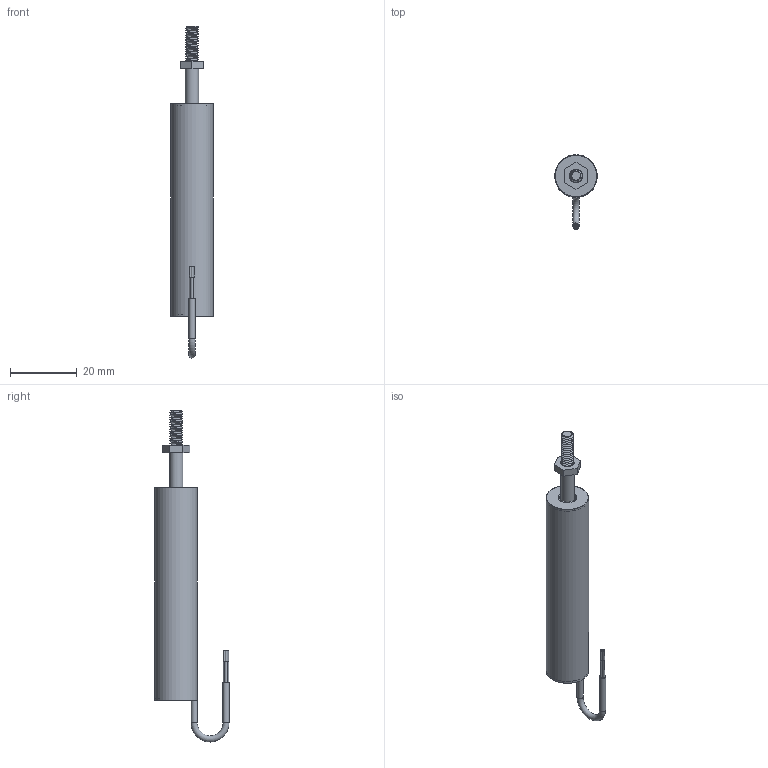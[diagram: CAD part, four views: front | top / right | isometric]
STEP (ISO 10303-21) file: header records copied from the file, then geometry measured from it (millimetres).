
FILE_DESCRIPTION(/* description */ (''),/* implementation_level */ '2;1');
FILE_NAME(/* name */ 'C:\Users\Justin\Documents\CAD\The Sensor Connection\Position Sensors\Displacement\ILPS\3D\Mechanically Linked\ILPS-13Z-XXX-A-00-YY-S\ILPS-13Z-02-A-00-YY-S\ILPS-13Z-02-A-00-YY-S Assembly_SW.iam.stp',/* time_stamp */ '2022-06-03T09:26:00-04:00',/* author */ ('TSC_Grant'),/* organization */ (''),/* preprocessor_version */ 'ST-DEVELOPER v19',/* originating_system */ 'Autodesk Inventor 2023',/* authorisation */ '');
FILE_SCHEMA (('AUTOMOTIVE_DESIGN { 1 0 10303 214 3 1 1 }'));
Length unit declared in the file: inch
Products named in the file (5): 3020-0017-XX Assembly_SW; 3020-0017-XX Sensor Tube_SW; 3020-0017-XX Shaft_SW; 3020-0017-XX Wire_SW; BS 4183 - M4
Assembly tree (4 placements, depth 2):
  3020-0017-XX Assembly_SW
    3020-0017-XX Sensor Tube_SW
    3020-0017-XX Shaft_SW
    3020-0017-XX Wire_SW
    BS 4183 - M4
Bounding box: 12.7 x 22.14 x 99.13 mm (x, y, z)
Volume: 1908.8 mm3; surface area: 9056 mm2
Topology: 7 solids, 7 shells, 60 faces, 112 edges, 74 vertices
Faces by surface type: plane 31, cylinder 21, cone 4, bspline 3, torus 1
Full cylindrical faces by diameter (mm): 0.508 x4, 0.635 x4, 1.857 x2, 3.242 x1, 3.988 x1, 4.826 x1, 5.588 x3, 12.446 x2, 12.7 x1
Entity records: 3399 total; most frequent: CARTESIAN_POINT 1856, DIRECTION 281, ORIENTED_EDGE 224, AXIS2_PLACEMENT_3D 116, EDGE_CURVE 112, EDGE_LOOP 78, VERTEX_POINT 74, FACE_OUTER_BOUND 60
